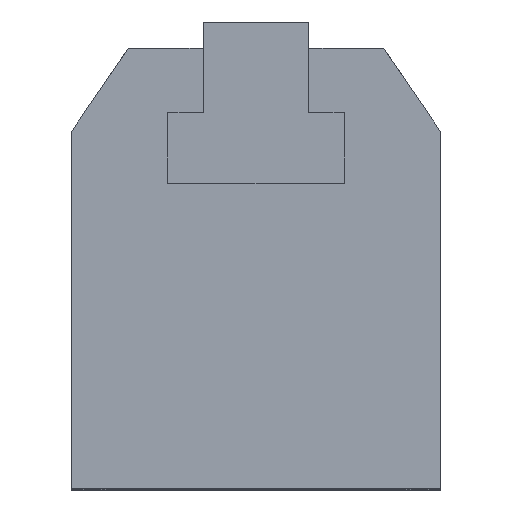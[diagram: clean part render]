
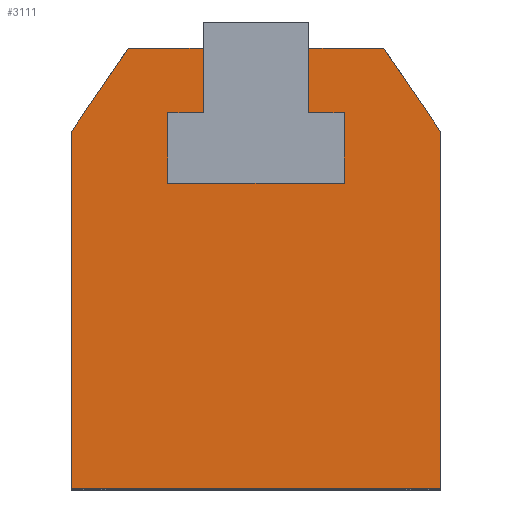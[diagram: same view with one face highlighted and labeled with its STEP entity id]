
A CAD part, top view. The second image highlights one B-rep face of the part: STEP entity #3111.
In plain terms, the highlighted planar face has unit normal (0, 0, 1).
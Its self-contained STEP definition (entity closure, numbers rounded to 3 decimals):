
#67 = CARTESIAN_POINT ( 'NONE',  ( -21., 0., 40. ) ) ;
#70 = DIRECTION ( 'NONE',  ( 0., 1., 0. ) ) ;
#208 = CARTESIAN_POINT ( 'NONE',  ( 0., 0., 40. ) ) ;
#252 = VERTEX_POINT ( 'NONE', #3048 ) ;
#254 = CARTESIAN_POINT ( 'NONE',  ( 14.5, 50., 40. ) ) ;
#287 = DIRECTION ( 'NONE',  ( -1., 0., 0. ) ) ;
#298 = LINE ( 'NONE', #4209, #5449 ) ;
#329 = CARTESIAN_POINT ( 'NONE',  ( 10., 34.7, 40. ) ) ;
#384 = VECTOR ( 'NONE', #6340, 1000. ) ;
#558 = DIRECTION ( 'NONE',  ( -0.565, -0.825, 0. ) ) ;
#591 = CARTESIAN_POINT ( 'NONE',  ( -21., 40.5, 40. ) ) ;
#650 = LINE ( 'NONE', #1938, #1670 ) ;
#720 = ORIENTED_EDGE ( 'NONE', *, *, #1898, .F. ) ;
#905 = CARTESIAN_POINT ( 'NONE',  ( -6., 50., 40. ) ) ;
#930 = LINE ( 'NONE', #7014, #2131 ) ;
#965 = ORIENTED_EDGE ( 'NONE', *, *, #7409, .T. ) ;
#969 = FACE_OUTER_BOUND ( 'NONE', #4130, .T. ) ;
#976 = LINE ( 'NONE', #6270, #3950 ) ;
#1257 = CARTESIAN_POINT ( 'NONE',  ( 6., 42.7, 40. ) ) ;
#1280 = DIRECTION ( 'NONE',  ( 1., 0., 0. ) ) ;
#1320 = LINE ( 'NONE', #67, #2797 ) ;
#1336 = DIRECTION ( 'NONE',  ( 0., -1., 0. ) ) ;
#1406 = VERTEX_POINT ( 'NONE', #905 ) ;
#1431 = CARTESIAN_POINT ( 'NONE',  ( 6., 50., 40. ) ) ;
#1432 = LINE ( 'NONE', #6115, #5902 ) ;
#1670 = VECTOR ( 'NONE', #287, 1000. ) ;
#1677 = VERTEX_POINT ( 'NONE', #329 ) ;
#1791 = EDGE_CURVE ( 'NONE', #1677, #5136, #7268, .T. ) ;
#1793 = LINE ( 'NONE', #3978, #6353 ) ;
#1898 = EDGE_CURVE ( 'NONE', #4199, #6078, #1432, .T. ) ;
#1900 = VECTOR ( 'NONE', #7586, 1000. ) ;
#1938 = CARTESIAN_POINT ( 'NONE',  ( -6., 42.7, 40. ) ) ;
#2082 = VERTEX_POINT ( 'NONE', #2379 ) ;
#2131 = VECTOR ( 'NONE', #558, 1000. ) ;
#2132 = EDGE_CURVE ( 'NONE', #2082, #6376, #976, .T. ) ;
#2137 = VERTEX_POINT ( 'NONE', #5125 ) ;
#2194 = EDGE_CURVE ( 'NONE', #7102, #6078, #1793, .T. ) ;
#2254 = LINE ( 'NONE', #5854, #384 ) ;
#2284 = EDGE_CURVE ( 'NONE', #1406, #6660, #298, .T. ) ;
#2327 = DIRECTION ( 'NONE',  ( 0., 1., 0. ) ) ;
#2379 = CARTESIAN_POINT ( 'NONE',  ( -10., 42.7, 40. ) ) ;
#2438 = CARTESIAN_POINT ( 'NONE',  ( -10., 34.7, 40. ) ) ;
#2525 = VECTOR ( 'NONE', #6657, 1000. ) ;
#2797 = VECTOR ( 'NONE', #1280, 1000. ) ;
#2895 = EDGE_CURVE ( 'NONE', #252, #7102, #3003, .T. ) ;
#2962 = VERTEX_POINT ( 'NONE', #591 ) ;
#3003 = LINE ( 'NONE', #6404, #1900 ) ;
#3048 = CARTESIAN_POINT ( 'NONE',  ( 21., 40.5, 40. ) ) ;
#3111 = ADVANCED_FACE ( 'NONE', ( #969 ), #3613, .F. ) ;
#3142 = VECTOR ( 'NONE', #2327, 1000. ) ;
#3144 = CARTESIAN_POINT ( 'NONE',  ( -21., 0., 40. ) ) ;
#3444 = EDGE_CURVE ( 'NONE', #4542, #252, #2254, .T. ) ;
#3613 = PLANE ( 'NONE',  #6239 ) ;
#3773 = VECTOR ( 'NONE', #70, 1000. ) ;
#3804 = ORIENTED_EDGE ( 'NONE', *, *, #7350, .T. ) ;
#3820 = VERTEX_POINT ( 'NONE', #3144 ) ;
#3865 = ORIENTED_EDGE ( 'NONE', *, *, #5333, .T. ) ;
#3893 = ORIENTED_EDGE ( 'NONE', *, *, #7013, .T. ) ;
#3950 = VECTOR ( 'NONE', #4505, 1000. ) ;
#3961 = DIRECTION ( 'NONE',  ( -1., 0., 0. ) ) ;
#3978 = CARTESIAN_POINT ( 'NONE',  ( 14.5, 50., 40. ) ) ;
#4130 = EDGE_LOOP ( 'NONE', ( #6059, #720, #7292, #7438, #7200, #4198, #5586, #3804, #7255, #965, #3893, #3865, #4959, #6471 ) ) ;
#4198 = ORIENTED_EDGE ( 'NONE', *, *, #2132, .F. ) ;
#4199 = VERTEX_POINT ( 'NONE', #1257 ) ;
#4209 = CARTESIAN_POINT ( 'NONE',  ( 14.5, 50., 40. ) ) ;
#4505 = DIRECTION ( 'NONE',  ( 0., -1., 0. ) ) ;
#4542 = VERTEX_POINT ( 'NONE', #5792 ) ;
#4734 = LINE ( 'NONE', #7649, #3142 ) ;
#4796 = CARTESIAN_POINT ( 'NONE',  ( 10., 42.7, 40. ) ) ;
#4810 = DIRECTION ( 'NONE',  ( -1., 0., 0. ) ) ;
#4825 = CARTESIAN_POINT ( 'NONE',  ( 10., 34.7, 40. ) ) ;
#4892 = CARTESIAN_POINT ( 'NONE',  ( 10., 42.7, 40. ) ) ;
#4959 = ORIENTED_EDGE ( 'NONE', *, *, #3444, .T. ) ;
#5125 = CARTESIAN_POINT ( 'NONE',  ( -6., 42.7, 40. ) ) ;
#5136 = VERTEX_POINT ( 'NONE', #4796 ) ;
#5333 = EDGE_CURVE ( 'NONE', #3820, #4542, #1320, .T. ) ;
#5449 = VECTOR ( 'NONE', #4810, 1000. ) ;
#5586 = ORIENTED_EDGE ( 'NONE', *, *, #6460, .F. ) ;
#5792 = CARTESIAN_POINT ( 'NONE',  ( 21., 0., 40. ) ) ;
#5794 = EDGE_CURVE ( 'NONE', #6376, #1677, #7240, .T. ) ;
#5849 = EDGE_CURVE ( 'NONE', #5136, #4199, #7692, .T. ) ;
#5854 = CARTESIAN_POINT ( 'NONE',  ( 21., 0., 40. ) ) ;
#5902 = VECTOR ( 'NONE', #7259, 1000. ) ;
#5936 = CARTESIAN_POINT ( 'NONE',  ( -10., 34.7, 40. ) ) ;
#5943 = LINE ( 'NONE', #7275, #7125 ) ;
#6059 = ORIENTED_EDGE ( 'NONE', *, *, #2194, .T. ) ;
#6078 = VERTEX_POINT ( 'NONE', #1431 ) ;
#6094 = DIRECTION ( 'NONE',  ( 0., 0., -1. ) ) ;
#6115 = CARTESIAN_POINT ( 'NONE',  ( 6., 42.7, 40. ) ) ;
#6239 = AXIS2_PLACEMENT_3D ( 'NONE', #208, #6094, #6720 ) ;
#6270 = CARTESIAN_POINT ( 'NONE',  ( -10., 42.7, 40. ) ) ;
#6340 = DIRECTION ( 'NONE',  ( 0., 1., 0. ) ) ;
#6353 = VECTOR ( 'NONE', #3961, 1000. ) ;
#6376 = VERTEX_POINT ( 'NONE', #5936 ) ;
#6404 = CARTESIAN_POINT ( 'NONE',  ( 21., 40.5, 40. ) ) ;
#6460 = EDGE_CURVE ( 'NONE', #2137, #2082, #650, .T. ) ;
#6471 = ORIENTED_EDGE ( 'NONE', *, *, #2895, .T. ) ;
#6657 = DIRECTION ( 'NONE',  ( -1., 0., 0. ) ) ;
#6660 = VERTEX_POINT ( 'NONE', #7472 ) ;
#6720 = DIRECTION ( 'NONE',  ( -1., 0., 0. ) ) ;
#7013 = EDGE_CURVE ( 'NONE', #2962, #3820, #5943, .T. ) ;
#7014 = CARTESIAN_POINT ( 'NONE',  ( -14.5, 50., 40. ) ) ;
#7056 = VECTOR ( 'NONE', #7653, 1000. ) ;
#7102 = VERTEX_POINT ( 'NONE', #254 ) ;
#7125 = VECTOR ( 'NONE', #1336, 1000. ) ;
#7200 = ORIENTED_EDGE ( 'NONE', *, *, #5794, .F. ) ;
#7240 = LINE ( 'NONE', #2438, #7056 ) ;
#7255 = ORIENTED_EDGE ( 'NONE', *, *, #2284, .T. ) ;
#7259 = DIRECTION ( 'NONE',  ( 0., 1., 0. ) ) ;
#7268 = LINE ( 'NONE', #4825, #3773 ) ;
#7275 = CARTESIAN_POINT ( 'NONE',  ( -21., 40.5, 40. ) ) ;
#7292 = ORIENTED_EDGE ( 'NONE', *, *, #5849, .F. ) ;
#7350 = EDGE_CURVE ( 'NONE', #2137, #1406, #4734, .T. ) ;
#7409 = EDGE_CURVE ( 'NONE', #6660, #2962, #930, .T. ) ;
#7438 = ORIENTED_EDGE ( 'NONE', *, *, #1791, .F. ) ;
#7472 = CARTESIAN_POINT ( 'NONE',  ( -14.5, 50., 40. ) ) ;
#7586 = DIRECTION ( 'NONE',  ( -0.565, 0.825, 0. ) ) ;
#7649 = CARTESIAN_POINT ( 'NONE',  ( -6., 0., 40. ) ) ;
#7653 = DIRECTION ( 'NONE',  ( 1., 0., 0. ) ) ;
#7692 = LINE ( 'NONE', #4892, #2525 ) ;
